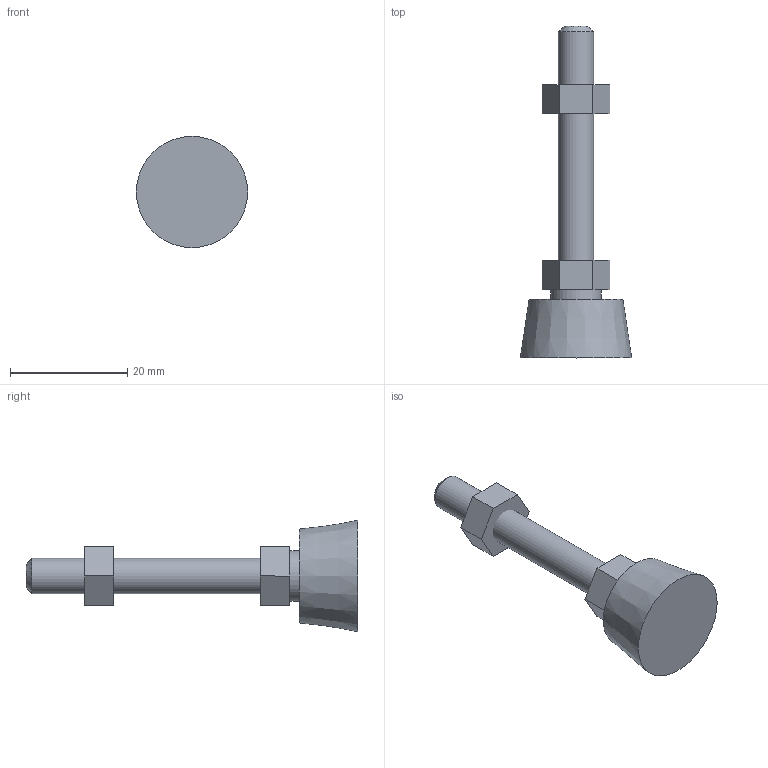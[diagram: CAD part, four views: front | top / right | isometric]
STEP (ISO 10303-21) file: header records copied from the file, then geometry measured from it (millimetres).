
FILE_DESCRIPTION(/* description */ ('www.motedis.com/part/LFM6-40B19','CAx-IF Rec.Pracs.---Representation and Presentation of Product Manufacturing Information (PMI)---4.0---2014-10-13'),/* implementation_level */ '2;1');
FILE_NAME(/* name */ 'Motedis_LFM6-40B19.stp',/* time_stamp */ '2026-10-08T10:33:08+02:00',/* author */ ('Motedis'),/* organization */ ('Motedis GmbH'),/* preprocessor_version */ 'ST-DEVELOPER v20.1',/* originating_system */ 'Autodesk Inventor 2026',/* authorisation */ 'Motedis GmbH');
FILE_SCHEMA (('AP242_MANAGED_MODEL_BASED_3D_ENGINEERING_MIM_LF { 1 0 10303 442 2 1 4 }'));
Length unit declared in the file: millimetre
Products named in the file (4): Motedis_LFM6-40B19; M16 Thread L150; Base80; NutM16
Assembly tree (3 placements, depth 2):
  Motedis_LFM6-40B19
    M16 Thread L150
    Base80
    NutM16
Bounding box: 19 x 56.63 x 19 mm (x, y, z)
Volume: 4403.5 mm3; surface area: 2952.5 mm2
Topology: 3 solids, 3 shells, 27 faces, 59 edges, 40 vertices
Faces by surface type: plane 20, cylinder 3, cone 2, sphere 2
Full cylindrical faces by diameter (mm): 4.917 x1, 6 x1, 8.6 x1
Entity records: 1345 total; most frequent: DIRECTION 245, CARTESIAN_POINT 226, ORIENTED_EDGE 110, AXIS2_PLACEMENT_3D 102, EDGE_CURVE 55, LINE 41, VECTOR 41, VERTEX_POINT 40
